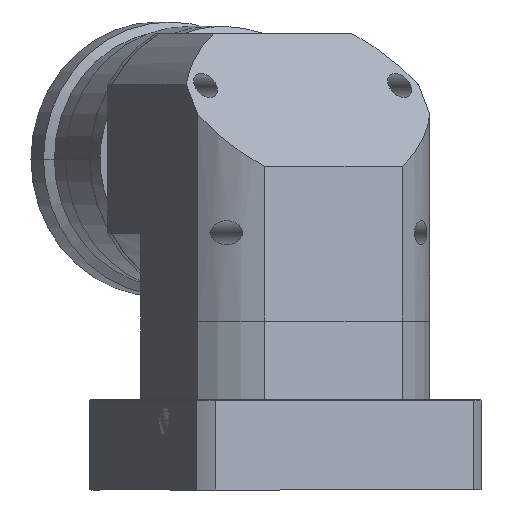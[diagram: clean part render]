
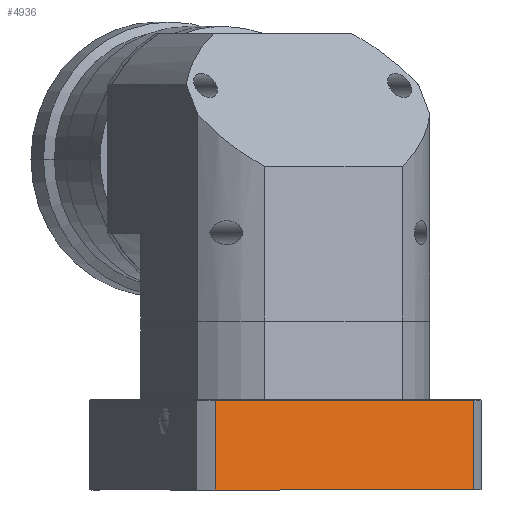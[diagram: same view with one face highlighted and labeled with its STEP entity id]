
A CAD part, front view. The second image highlights one B-rep face of the part: STEP entity #4936.
In plain terms, the highlighted planar face has unit normal (0.383, -0.924, 0).
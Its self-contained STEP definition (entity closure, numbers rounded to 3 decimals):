
#302 = CARTESIAN_POINT ( 'NONE',  ( -64.954, 179.037, 183.706 ) ) ;
#312 = LINE ( 'NONE', #4571, #9530 ) ;
#629 = LINE ( 'NONE', #8003, #5380 ) ;
#1640 = ORIENTED_EDGE ( 'NONE', *, *, #3463, .F. ) ;
#1757 = DIRECTION ( 'NONE',  ( -0.383, 0.924, 0. ) ) ;
#1902 = EDGE_LOOP ( 'NONE', ( #2124, #2836, #5703, #1640 ) ) ;
#2124 = ORIENTED_EDGE ( 'NONE', *, *, #3133, .T. ) ;
#2395 = CARTESIAN_POINT ( 'NONE',  ( -210.859, 118.534, 183.706 ) ) ;
#2836 = ORIENTED_EDGE ( 'NONE', *, *, #13779, .T. ) ;
#3025 = DIRECTION ( 'NONE',  ( 0., 0., 1. ) ) ;
#3133 = EDGE_CURVE ( 'NONE', #8367, #7966, #3302, .T. ) ;
#3302 = LINE ( 'NONE', #302, #12870 ) ;
#3427 = VECTOR ( 'NONE', #3025, 1000. ) ;
#3463 = EDGE_CURVE ( 'NONE', #8367, #12602, #629, .T. ) ;
#3464 = CARTESIAN_POINT ( 'NONE',  ( -64.954, 179.037, 234.206 ) ) ;
#4571 = CARTESIAN_POINT ( 'NONE',  ( -210.859, 118.534, 234.206 ) ) ;
#4824 = DIRECTION ( 'NONE',  ( -0.924, -0.383, 0. ) ) ;
#4936 = ADVANCED_FACE ( 'NONE', ( #10759 ), #13520, .F. ) ;
#5380 = VECTOR ( 'NONE', #4824, 1000. ) ;
#5480 = LINE ( 'NONE', #10722, #3427 ) ;
#5703 = ORIENTED_EDGE ( 'NONE', *, *, #9454, .F. ) ;
#7863 = AXIS2_PLACEMENT_3D ( 'NONE', #10687, #1757, #9570 ) ;
#7966 = VERTEX_POINT ( 'NONE', #3464 ) ;
#8003 = CARTESIAN_POINT ( 'NONE',  ( -210.859, 118.534, 183.706 ) ) ;
#8367 = VERTEX_POINT ( 'NONE', #11839 ) ;
#8861 = DIRECTION ( 'NONE',  ( -0.924, -0.383, 0. ) ) ;
#9454 = EDGE_CURVE ( 'NONE', #12602, #9925, #5480, .T. ) ;
#9521 = CARTESIAN_POINT ( 'NONE',  ( -210.859, 118.534, 234.206 ) ) ;
#9530 = VECTOR ( 'NONE', #8861, 1000. ) ;
#9570 = DIRECTION ( 'NONE',  ( -0.924, -0.383, 0. ) ) ;
#9925 = VERTEX_POINT ( 'NONE', #9521 ) ;
#10687 = CARTESIAN_POINT ( 'NONE',  ( -210.859, 118.534, 183.706 ) ) ;
#10722 = CARTESIAN_POINT ( 'NONE',  ( -210.859, 118.534, 183.706 ) ) ;
#10759 = FACE_OUTER_BOUND ( 'NONE', #1902, .T. ) ;
#11839 = CARTESIAN_POINT ( 'NONE',  ( -64.954, 179.037, 183.706 ) ) ;
#12602 = VERTEX_POINT ( 'NONE', #2395 ) ;
#12870 = VECTOR ( 'NONE', #13170, 1000. ) ;
#13170 = DIRECTION ( 'NONE',  ( 0., 0., 1. ) ) ;
#13520 = PLANE ( 'NONE',  #7863 ) ;
#13779 = EDGE_CURVE ( 'NONE', #7966, #9925, #312, .T. ) ;
